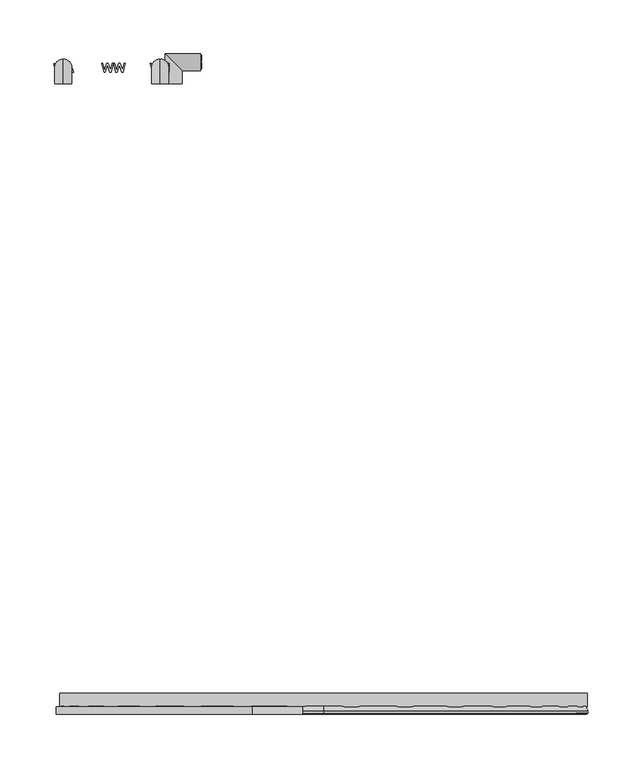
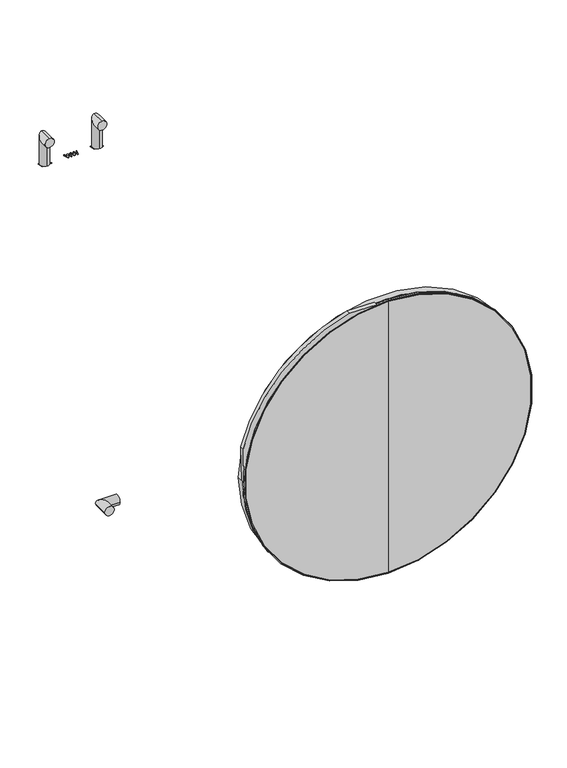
"""IFC4 building model written with IfcOpenShell, lengths in millimetres: proxy geometry, 12698670_D_WQ1000WPS_LW : 11Q10002_D_12698670_WQ1000WPS_LW."""

from ifc_helpers import new_model, si_unit, point, frame, frame_2d, origin, place, context, project, spatial, polyline, circle_curve, ellipse_curve, trimmed, segment, composite_curve, outline, extrude, source, transform, mapped, element, save
from ifc_brep_helpers import plane_surface, cylinder_surface, revolved_surface, advanced_brep


def specialty_equipment_b4e01714(model_context):
    return source(origin(), model_context, "Body", "SolidModel", [
        advanced_brep(
        [(-242.6687967, -32.0, 743.4000001), (-242.6687967, -32.0, 759.4000001), (-242.6687967, -25.1000366, 743.4000001), (-242.6687967, -9.1000366, 759.4000001), (-242.6687967, -25.1000366, 705.6500001), (-242.6687967, -9.1000366, 705.6500001)],
        [
            (0, 1, circle_curve(frame((-242.6687967, -32.0, 751.4000001), z_axis=(0.0, -1.0, 0.0), x_axis=(0.0, 0.0, 1.0)), 8.0)),
            (1, 0, circle_curve(frame((-242.6687967, -32.0, 751.4000001), z_axis=(0.0, -1.0, 0.0), x_axis=(0.0, 0.0, 1.0)), 8.0)),
            (0, 2),
            (2, 3, ellipse_curve(frame((-242.6687967, -17.1000366, 751.4000001), z_axis=(0.0, -0.7071067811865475, 0.7071067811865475), x_axis=(0.0, -0.7071067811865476, -0.7071067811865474)), 11.3137085, 8.0)),
            (3, 1),
            (3, 2, ellipse_curve(frame((-242.6687967, -17.1000366, 751.4000001), z_axis=(0.0, -0.7071067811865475, 0.7071067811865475), x_axis=(0.0, -0.7071067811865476, -0.7071067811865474)), 11.3137085, 8.0)),
            (4, 5, circle_curve(frame((-242.6687967, -17.1000366, 705.6500001), z_axis=(0.0, 0.0, -1.0), x_axis=(0.0, 1.0, 0.0)), 8.0)),
            (5, 4, circle_curve(frame((-242.6687967, -17.1000366, 705.6500001), z_axis=(0.0, 0.0, -1.0), x_axis=(0.0, 1.0, 0.0)), 8.0)),
            (2, 4),
            (5, 3),
        ],
        [
            plane_surface(frame((-90.2872201, -32.0, 751.4000001), z_axis=(0.0, -1.0, 0.0), x_axis=(1.0, 0.0, 0.0))),
            cylinder_surface(frame((-242.6687967, -32.0, 751.4000001), z_axis=(0.0, -1.0, 0.0), x_axis=(0.0, 0.0, 1.0)), 8.0),
            plane_surface(frame((-90.2872201, -17.1000366, 705.6500001), z_axis=(0.0, 0.0, -1.0), x_axis=(1.0, 0.0, 0.0))),
            cylinder_surface(frame((-242.6687967, -17.1000366, 751.4000001), z_axis=(0.0, 0.0, 1.0), x_axis=(0.0, 1.0, 0.0)), 8.0),
        ],
        [
            (0, [[1, 2]]),
            (1, [[-1, 3, 4, 5]]),
            (1, [[-2, -5, 6, -3]]),
            (2, [[7, 8]]),
            (3, [[-4, 9, -8, 10]]),
            (3, [[-6, -10, -7, -9]]),
        ],
    ),
        advanced_brep(
        [(-152.3815765, -32.0, 743.4000001), (-152.3815765, -32.0, 759.4000001), (-152.3815765, -25.1000366, 743.4000001), (-152.3815765, -9.1000366, 759.4000001), (-152.3815765, -25.1000366, 705.6500001), (-152.3815765, -9.1000366, 705.6500001)],
        [
            (0, 1, circle_curve(frame((-152.3815765, -32.0, 751.4000001), z_axis=(0.0, -1.0, 0.0), x_axis=(0.0, 0.0, 1.0)), 8.0)),
            (1, 0, circle_curve(frame((-152.3815765, -32.0, 751.4000001), z_axis=(0.0, -1.0, 0.0), x_axis=(0.0, 0.0, 1.0)), 8.0)),
            (0, 2),
            (2, 3, ellipse_curve(frame((-152.3815765, -17.1000366, 751.4000001), z_axis=(0.0, -0.7071067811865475, 0.7071067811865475), x_axis=(0.0, -0.7071067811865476, -0.7071067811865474)), 11.3137085, 8.0)),
            (3, 1),
            (3, 2, ellipse_curve(frame((-152.3815765, -17.1000366, 751.4000001), z_axis=(0.0, -0.7071067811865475, 0.7071067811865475), x_axis=(0.0, -0.7071067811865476, -0.7071067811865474)), 11.3137085, 8.0)),
            (4, 5, circle_curve(frame((-152.3815765, -17.1000366, 705.6500001), z_axis=(0.0, 0.0, -1.0), x_axis=(0.0, 1.0, 0.0)), 8.0)),
            (5, 4, circle_curve(frame((-152.3815765, -17.1000366, 705.6500001), z_axis=(0.0, 0.0, -1.0), x_axis=(0.0, 1.0, 0.0)), 8.0)),
            (2, 4),
            (5, 3),
        ],
        [
            plane_surface(frame((1.0055866, -32.0, 751.4000001), z_axis=(0.0, -1.0, 0.0), x_axis=(1.0, 0.0, 0.0))),
            cylinder_surface(frame((-152.3815765, -32.0, 751.4000001), z_axis=(0.0, -1.0, 0.0), x_axis=(0.0, 0.0, 1.0)), 8.0),
            plane_surface(frame((1.0055866, -17.1000366, 705.6500001), z_axis=(0.0, 0.0, -1.0), x_axis=(1.0, 0.0, 0.0))),
            cylinder_surface(frame((-152.3815765, -17.1000366, 751.4000001), z_axis=(0.0, 0.0, 1.0), x_axis=(0.0, 1.0, 0.0)), 8.0),
        ],
        [
            (0, [[1, 2]]),
            (1, [[-1, 3, 4, 5]]),
            (1, [[-2, -5, 6, -3]]),
            (2, [[7, 8]]),
            (3, [[-4, 9, -8, 10]]),
            (3, [[-6, -10, -7, -9]]),
        ],
    ),
        extrude(outline(polyline([(-152.9097049, -21.1040968), (-154.1222405, -21.1040968), (-155.8927452, -15.0877991), (-156.1974037, -14.046687), (-156.4641211, -14.9125894), (-158.3759251, -21.1172431), (-159.4491564, -21.1172431), (-161.6620355, -13.0886182), (-160.6260828, -13.0886182), (-159.3300982, -18.4119186), (-158.945656, -19.9943627), (-158.0914116, -17.0453197), (-156.9433495, -13.0772697), (-155.4502434, -13.0772697), (-153.843918, -18.5399914), (-153.4205749, -19.9810749), (-153.0320899, -18.3496828), (-151.7733961, -13.0648359), (-150.7374434, -13.0648359), (-152.9097049, -21.1040968)])), frame((0.0, 0.0, 704.6500001), z_axis=(0.0, 0.0, 1.0), x_axis=(1.0, 0.0, 0.0)), (0.0, 0.0, 1.0), 1.0),
        extrude(outline(polyline([(-144.0725682, -21.0828202), (-145.0674645, -21.0828202), (-145.0674645, -18.3226956), (-146.4310152, -17.0349347), (-149.4898838, -21.0958721), (-150.7181156, -21.0958721), (-147.1448653, -16.3577847), (-150.6118734, -13.0620425), (-149.2070587, -13.0620425), (-145.0773313, -16.982628), (-145.0773313, -13.0487546), (-144.0822321, -13.0487546), (-144.0725682, -21.0828202)])), frame((0.0, 0.0, 704.6500001), z_axis=(0.0, 0.0, 1.0), x_axis=(1.0, 0.0, 0.0)), (0.0, 0.0, 1.0), 1.0),
        extrude(outline(polyline([(-187.0822388, -21.0890931), (-188.2947743, -21.0890931), (-190.065279, -15.0727954), (-190.3699375, -14.0316833), (-190.6366549, -14.8975857), (-192.5484589, -21.1022394), (-193.6216902, -21.1022394), (-195.8345694, -13.0736145), (-194.7986167, -13.0736145), (-193.502632, -18.3969149), (-193.1181899, -19.979359), (-192.2639455, -17.030316), (-191.1158833, -13.062266), (-189.6227772, -13.062266), (-188.0164518, -18.5249877), (-187.5931088, -19.9660712), (-187.2046237, -18.3346791), (-185.9459299, -13.0498323), (-184.9099772, -13.0498323), (-187.0822388, -21.0890931)])), frame((0.0, 0.0, 704.6500001), z_axis=(0.0, 0.0, 1.0), x_axis=(1.0, 0.0, 0.0)), (0.0, 0.0, 1.0), 1.0),
        extrude(outline(polyline([(-198.257971, -21.1159709), (-199.4705065, -21.1159709), (-201.2410112, -15.0996731), (-201.5456697, -14.058561), (-201.8123871, -14.9244634), (-203.7241911, -21.1291172), (-204.7974224, -21.1291172), (-207.0103016, -13.1004922), (-205.9743489, -13.1004922), (-204.6783642, -18.4237926), (-204.293922, -20.0062367), (-203.4396776, -17.0571937), (-202.2916155, -13.0891438), (-200.7985094, -13.0891438), (-199.192184, -18.5518654), (-198.768841, -19.9929489), (-198.3803559, -18.3615569), (-197.1216621, -13.07671), (-196.0857094, -13.07671), (-198.257971, -21.1159709)])), frame((0.0, 0.0, 704.6500001), z_axis=(0.0, 0.0, 1.0), x_axis=(1.0, 0.0, 0.0)), (0.0, 0.0, 1.0), 1.0),
        extrude(outline(polyline([(-233.1544004, -21.4455551), (-234.2158595, -21.4455551), (-235.1401302, -18.9389157), (-238.4500776, -18.9389157), (-239.3642305, -21.4604898), (-240.4256896, -21.4604898), (-237.2370957, -13.4188459), (-236.3816499, -13.4188459), (-233.1544004, -21.4455551)]), holes=[polyline([(-235.5114082, -17.9383381), (-236.3033498, -15.7887102), (-236.8069568, -14.4223774), (-237.3663557, -15.9639265), (-238.0855937, -17.9414336), (-235.5114082, -17.9383381)])]), frame((0.0, 0.0, 704.6500001), z_axis=(0.0, 0.0, 1.0), x_axis=(1.0, 0.0, 0.0)), (0.0, 0.0, 1.0), 1.0),
        extrude(outline(polyline([(-242.9370901, -21.4690825), (-244.1496257, -21.4690825), (-245.9201304, -15.4527848), (-246.2247889, -14.4116727), (-246.4915063, -15.2775751), (-248.4033102, -21.4822288), (-249.4765415, -21.4822288), (-251.6894207, -13.4536039), (-250.653468, -13.4536039), (-249.3574833, -18.7769043), (-248.9730412, -20.3593484), (-248.1187968, -17.4103054), (-246.9707346, -13.4422554), (-245.4776286, -13.4422554), (-243.8713031, -18.9049771), (-243.4479601, -20.3460605), (-243.059475, -18.7146685), (-241.8007813, -13.4298216), (-240.7648286, -13.4298216), (-242.9370901, -21.4690825)])), frame((0.0, 0.0, 704.6500001), z_axis=(0.0, 0.0, 1.0), x_axis=(1.0, 0.0, 0.0)), (0.0, 0.0, 1.0), 1.0),
        advanced_brep(
        [(-131.7000084, -32.0, 47.1000009), (-147.7000084, -32.0, 47.1000009), (-131.7000084, -20.0, 47.1000009), (-147.7000084, -4.0, 47.1000009), (-114.7000084, -20.0, 47.1000009), (-114.7000084, -4.0, 47.1000009)],
        [
            (0, 1, circle_curve(frame((-139.7000084, -32.0, 47.1000009), z_axis=(0.0, -1.0, 0.0), x_axis=(-1.0, 0.0, 0.0)), 8.0)),
            (1, 0, circle_curve(frame((-139.7000084, -32.0, 47.1000009), z_axis=(0.0, -1.0, 0.0), x_axis=(-1.0, 0.0, 0.0)), 8.0)),
            (0, 2),
            (2, 3, ellipse_curve(frame((-139.7000084, -12.0, 47.1000009), z_axis=(-0.7071067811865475, -0.7071067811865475, 0.0), x_axis=(0.7071067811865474, -0.7071067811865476, 0.0)), 11.3137085, 8.0)),
            (3, 1),
            (3, 2, ellipse_curve(frame((-139.7000084, -12.0, 47.1000009), z_axis=(-0.7071067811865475, -0.7071067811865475, 0.0), x_axis=(0.7071067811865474, -0.7071067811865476, 0.0)), 11.3137085, 8.0)),
            (4, 5, circle_curve(frame((-114.7000084, -12.0, 47.1000009), z_axis=(1.0, 0.0, 0.0), x_axis=(0.0, 1.0, 0.0)), 8.0)),
            (5, 4, circle_curve(frame((-114.7000084, -12.0, 47.1000009), z_axis=(1.0, 0.0, 0.0), x_axis=(0.0, 1.0, 0.0)), 8.0)),
            (2, 4),
            (5, 3),
        ],
        [
            plane_surface(frame((-139.7000084, -32.0, 0.0), z_axis=(0.0, -1.0, 0.0), x_axis=(0.0, 0.0, 1.0))),
            cylinder_surface(frame((-139.7000084, -32.0, 47.1000009), z_axis=(0.0, -1.0, 0.0), x_axis=(-1.0, 0.0, 0.0)), 8.0),
            plane_surface(frame((-114.7000084, -12.0, 0.0), z_axis=(1.0, 0.0, 0.0), x_axis=(0.0, 0.0, 1.0))),
            cylinder_surface(frame((-139.7000084, -12.0, 47.1000009), z_axis=(-1.0, 0.0, 0.0), x_axis=(0.0, 1.0, 0.0)), 8.0),
        ],
        [
            (0, [[1, 2]]),
            (1, [[-1, 3, 4, 5]]),
            (1, [[-2, -5, 6, -3]]),
            (2, [[7, 8]]),
            (3, [[-4, 9, -8, 10]]),
            (3, [[-6, -10, -7, -9]]),
        ],
    ),
        extrude(outline(polyline([(-17.9018082, 43.3236689), (-17.9018082, 51.3601737), (-12.1255704, 51.3601737), (-12.1255704, 50.3556106), (-16.8972451, 50.3556106), (-16.8972451, 47.9697732), (-12.3767112, 47.9697732), (-12.3767112, 46.9652101), (-16.8972451, 46.9652101), (-16.8972451, 44.328232), (-12.0, 44.328232), (-12.0, 43.3236689), (-17.9018082, 43.3236689)])), frame((-114.7000084, 0.0, 0.0), z_axis=(1.0, 0.0, 0.0), x_axis=(0.0, 1.0, 0.0)), (0.0, 0.0, 1.0), 1.0),
        extrude(outline(polyline([(-10.4931553, 43.3236689), (-10.4931553, 51.3601737), (-9.4885922, 51.3601737), (-9.4885922, 44.328232), (-5.4703398, 44.328232), (-5.4703398, 43.3236689), (-10.4931553, 43.3236689)])), frame((-114.7000084, 0.0, 0.0), z_axis=(1.0, 0.0, 0.0), x_axis=(0.0, 1.0, 0.0)), (0.0, 0.0, 1.0), 1.0),
        advanced_brep(
        [(0.0, -612.0368516, 242.8085926), (0.0, -612.0368516, 734.7979489), (0.0, -612.0368516, 488.8032707), (0.0, -616.2398077, 240.937316), (0.0, -616.2398077, 736.6692255), (0.0, -618.5778464, 240.937316), (0.0, -618.5778464, 736.6692255), (0.0, -619.0547882, 241.6184595), (0.0, -619.0547882, 735.988082), (0.0, -619.3692986, 242.7032384), (0.0, -619.3692986, 734.9033031), (0.0, -619.3692986, 488.8032707)],
        [
            (0, 1, circle_curve(frame((0.0, -612.0368516, 488.8032707), z_axis=(0.0, 1.0, 0.0), x_axis=(0.0, 0.0, 1.0)), 245.9946781)),
            (1, 2),
            (2, 0),
            (1, 0, circle_curve(frame((0.0, -612.0368516, 488.8032707), z_axis=(0.0, 1.0, 0.0), x_axis=(0.0, 0.0, 1.0)), 245.9946781)),
            (3, 4, circle_curve(frame((0.0, -616.2398077, 488.8032707), z_axis=(0.0, 1.0, 0.0), x_axis=(0.0, 0.0, 1.0)), 247.8659547)),
            (4, 1),
            (0, 3),
            (4, 3, circle_curve(frame((0.0, -616.2398077, 488.8032707), z_axis=(0.0, 1.0, 0.0), x_axis=(0.0, 0.0, 1.0)), 247.8659547)),
            (5, 6, circle_curve(frame((0.0, -618.5778464, 488.8032707), z_axis=(0.0, 1.0, 0.0), x_axis=(0.0, 0.0, 1.0)), 247.8659547)),
            (6, 4),
            (3, 5),
            (6, 5, circle_curve(frame((0.0, -618.5778464, 488.8032707), z_axis=(0.0, 1.0, 0.0), x_axis=(0.0, 0.0, 1.0)), 247.8659547)),
            (7, 8, circle_curve(frame((0.0, -619.0547882, 488.8032707), z_axis=(0.0, 1.0, 0.0), x_axis=(0.0, 0.0, 1.0)), 247.1848113)),
            (8, 6),
            (5, 7),
            (8, 7, circle_curve(frame((0.0, -619.0547882, 488.8032707), z_axis=(0.0, 1.0, 0.0), x_axis=(0.0, 0.0, 1.0)), 247.1848113)),
            (9, 10, circle_curve(frame((0.0, -619.3692986, 488.8032707), z_axis=(0.0, 1.0, 0.0), x_axis=(0.0, 0.0, 1.0)), 246.1000324)),
            (10, 8),
            (7, 9),
            (10, 9, circle_curve(frame((0.0, -619.3692986, 488.8032707), z_axis=(0.0, 1.0, 0.0), x_axis=(0.0, 0.0, 1.0)), 246.1000324)),
            (11, 10),
            (9, 11),
        ],
        [
            plane_surface(frame((0.0, -612.0368516, 488.8032707), z_axis=(0.0, 1.0, 0.0), x_axis=(0.0, 0.0, 1.0))),
            revolved_surface(polyline([(0.0, -612.0368516, 734.7979489), (0.0, -616.2398077, 736.6692255)]), (0.0, -607.8754395, 488.8032707), (0.0, -1.0, 0.0)),
            cylinder_surface(frame((0.0, -607.8754395, 488.8032707), z_axis=(0.0, -1.0, 0.0), x_axis=(0.0, 0.0, 1.0)), 247.8659547),
            revolved_surface(polyline([(0.0, -618.5778464, 736.6692255), (0.0, -619.0547882, 735.988082)]), (0.0, -607.8754395, 488.8032707), (0.0, -1.0, 0.0)),
            revolved_surface(polyline([(0.0, -619.0547882, 735.988082), (0.0, -619.3692986, 734.9033031)]), (0.0, -607.8754395, 488.8032707), (0.0, -1.0, 0.0)),
            plane_surface(frame((0.0, -619.3692986, 488.8032707), z_axis=(0.0, -1.0, 0.0), x_axis=(0.0, 0.0, 1.0))),
        ],
        [
            (0, [[1, 2, 3]]),
            (0, [[4, -3, -2]]),
            (1, [[5, 6, -1, 7]]),
            (1, [[8, -7, -4, -6]]),
            (2, [[9, 10, -5, 11]]),
            (2, [[12, -11, -8, -10]]),
            (3, [[13, 14, -9, 15]]),
            (3, [[16, -15, -12, -14]]),
            (4, [[17, 18, -13, 19]]),
            (4, [[20, -19, -16, -18]]),
            (5, [[21, -17, 22]]),
            (5, [[-22, -20, -21]]),
        ],
    ),
        extrude(outline(composite_curve([segment(trimmed(circle_curve(frame_2d((488.8032707, 0.0)), 246.0), [point((488.8032707, -246.0))], [point((488.8032707, 246.0))], False, "CARTESIAN"), True, "CONTINUOUS"), segment(trimmed(circle_curve(frame_2d((488.8032707, 0.0)), 246.0), [point((488.8032707, 246.0))], [point((488.8032707, -246.0))], False, "CARTESIAN"), True, "CONTINUOUS")], self_intersect=False), holes=[composite_curve([segment(trimmed(circle_curve(frame_2d((488.8032707, 0.0)), 165.0), [point((488.8032707, 165.0))], [point((488.8032707, -165.0))], True, "CARTESIAN"), True, "CONTINUOUS"), segment(trimmed(circle_curve(frame_2d((488.8032707, 0.0)), 165.0), [point((488.8032707, -165.0))], [point((488.8032707, 165.0))], True, "CARTESIAN"), True, "CONTINUOUS")], self_intersect=False)]), frame((0.0, -612.219297, 0.0), z_axis=(0.0, 1.0, 0.0), x_axis=(0.0, 0.0, 1.0)), (0.0, 0.0, 1.0), 12.5192604),
        extrude(outline(composite_curve([segment(trimmed(circle_curve(frame_2d((488.8032707, 0.0)), 248.0), [point((492.7669893, -247.9683224))], [point((736.0239029, -19.6458396))], True, "CARTESIAN"), True, "CONTINUOUS"), segment(polyline([(736.0239029, -19.6458396), (736.6692255, -66.444722)]), True, "CONTINUOUS"), segment(trimmed(circle_curve(frame_2d((489.8279561, -2.4573191)), 255.0), [point((736.6692255, -66.444722))], [point((553.8153591, -249.2985884))], False, "CARTESIAN"), True, "CONTINUOUS"), segment(polyline([(553.8153591, -249.2985884), (492.7669893, -247.9683224)]), True, "CONTINUOUS")], self_intersect=False)), frame((0.0, -619.3692986, 0.0), z_axis=(0.0, 1.0, 0.0), x_axis=(0.0, 0.0, 1.0)), (0.0, 0.0, 1.0), 7.1500015),
    ])


if __name__ == "__main__":
    model = new_model("IFC4")
    model_context = context("Model", 3, world=origin())
    ifc_project = project(units=[si_unit("LENGTHUNIT", "METRE", prefix="MILLI")], contexts=[model_context])
    site = spatial("IfcSite", under=ifc_project)
    building = spatial("IfcBuilding", under=site)
    placement = place(None, origin())
    specialty_equipment_shape = specialty_equipment_b4e01714(model_context)
    element("IfcBuildingElementProxy", 1, Name="12698670_D_WQ1000WPS_LW : 11Q10002_D_12698670_WQ1000WPS_LW", ObjectType="12698670_D_WQ1000WPS_LW : 11Q10002_D_12698670_WQ1000WPS_LW", at=placement, inside=building, context=model_context, shape_type="MappedRepresentation", body=[
        mapped(specialty_equipment_shape, transform((0.0, 0.0, 0.0), x_axis=(1.0, 0.0, 0.0), y_axis=(0.0, 1.0, 0.0), z_axis=(0.0, 0.0, 1.0))),
    ])
    save(model, "model.ifc")
